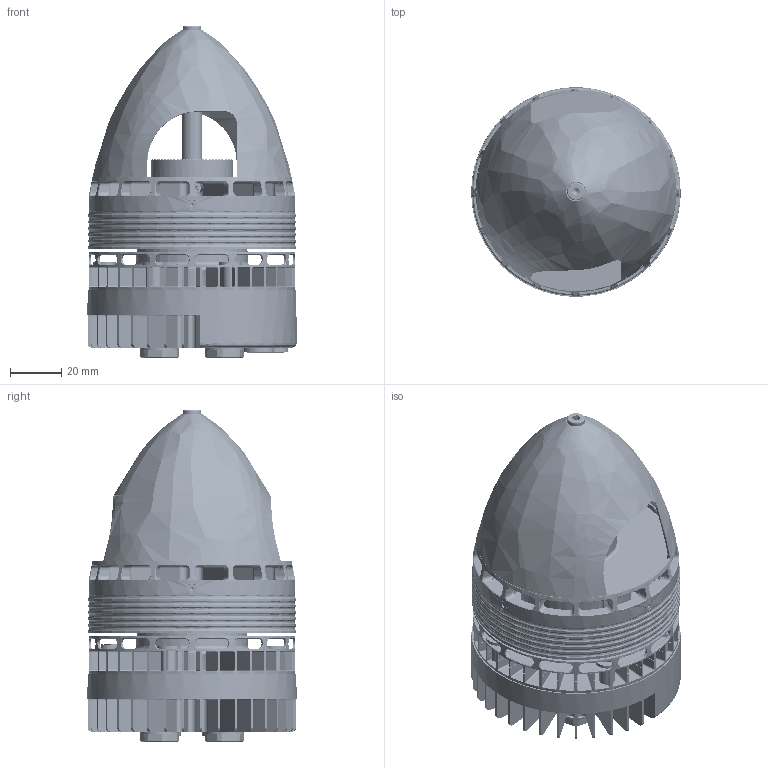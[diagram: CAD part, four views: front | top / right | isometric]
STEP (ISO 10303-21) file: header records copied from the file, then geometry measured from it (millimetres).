
FILE_DESCRIPTION (( 'STEP AP203' ), '1' );
FILE_NAME ('IV7215（外发）.STEP', '2025-06-19T03:05:28', ( '微软用户' ), ( '微软中国' ), 'SwSTEP 2.0', 'SolidWorks 2020', '' );
FILE_SCHEMA (( 'CONFIG_CONTROL_DESIGN' ));
Products named in the file (1): IV7215ㄗ俋楷ㄘ
Bounding box: 81.97 x 81.98 x 130 mm (x, y, z)
Volume: 103912.1 mm3; surface area: 134630 mm2
Topology: 1 solids, 84 shells, 6453 faces, 15653 edges, 9240 vertices
Faces by surface type: plane 3451, cylinder 1482, bspline 717, cone 564, torus 239
Entity records: 301487 total; most frequent: CARTESIAN_POINT 157698, ORIENTED_EDGE 31238, DIRECTION 28479, EDGE_CURVE 15619, AXIS2_PLACEMENT_3D 10212, VERTEX_POINT 9240, VECTOR 8055, LINE 8055
